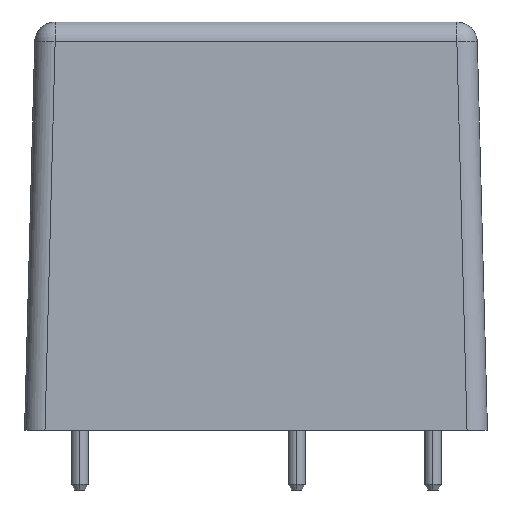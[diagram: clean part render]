
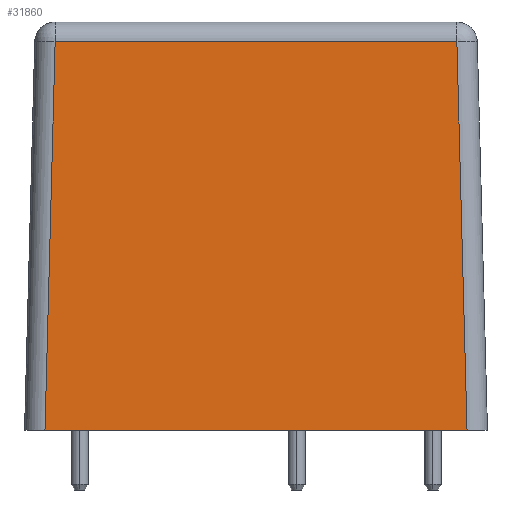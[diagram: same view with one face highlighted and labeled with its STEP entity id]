
A CAD part, left-side view. The second image highlights one B-rep face of the part: STEP entity #31860.
In plain terms, the highlighted planar face has unit normal (-1, 0, 0.026).
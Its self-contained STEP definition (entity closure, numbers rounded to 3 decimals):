
#28510=CARTESIAN_POINT('',(1.884,72.571,
22.831));
#28520=VERTEX_POINT('',#28510);
#28760=CARTESIAN_POINT('',(1.884,48.966,
22.831));
#28770=VERTEX_POINT('',#28760);
#28800=CARTESIAN_POINT('',(1.884,72.571,
22.831));
#28810=DIRECTION('',(0.,-1.,0.));
#28820=VECTOR('',#28810,1.);
#28830=LINE('',#28800,#28820);
#28840=EDGE_CURVE('',#28520,#28770,#28830,.T.);
#29340=CARTESIAN_POINT('',(1.286,48.368,0.));
#29350=VERTEX_POINT('',#29340);
#29380=CARTESIAN_POINT('',(1.286,48.368,
0.));
#29390=DIRECTION('',(0.026,0.026,
0.999));
#29400=VECTOR('',#29390,1.);
#29410=LINE('',#29380,#29400);
#29420=EDGE_CURVE('',#29350,#28770,#29410,.T.);
#31550=CARTESIAN_POINT('',(1.286,73.169,0.));
#31560=VERTEX_POINT('',#31550);
#31610=CARTESIAN_POINT('',(1.884,72.571,
22.831));
#31620=DIRECTION('',(-0.026,0.026,
-0.999));
#31630=VECTOR('',#31620,1.);
#31640=LINE('',#31610,#31630);
#31650=EDGE_CURVE('',#28520,#31560,#31640,.T.);
#31700=CARTESIAN_POINT('',(1.286,47.268,0.));
#31710=DIRECTION('',(-1.,0.,0.026));
#31720=DIRECTION('',(0.,1.,0.));
#31730=AXIS2_PLACEMENT_3D('',#31700,#31710,#31720);
#31740=PLANE('',#31730);
#31750=ORIENTED_EDGE('',*,*,#28840,.F.);
#31760=ORIENTED_EDGE('',*,*,#29420,.T.);
#31770=CARTESIAN_POINT('',(1.286,48.368,0.));
#31780=DIRECTION('',(0.,1.,0.));
#31790=VECTOR('',#31780,1.);
#31800=LINE('',#31770,#31790);
#31810=EDGE_CURVE('',#29350,#31560,#31800,.T.);
#31820=ORIENTED_EDGE('',*,*,#31810,.F.);
#31830=ORIENTED_EDGE('',*,*,#31650,.T.);
#31840=EDGE_LOOP('',(#31830,#31820,#31760,#31750));
#31850=FACE_OUTER_BOUND('',#31840,.T.);
#31860=ADVANCED_FACE('',(#31850),#31740,.T.);
